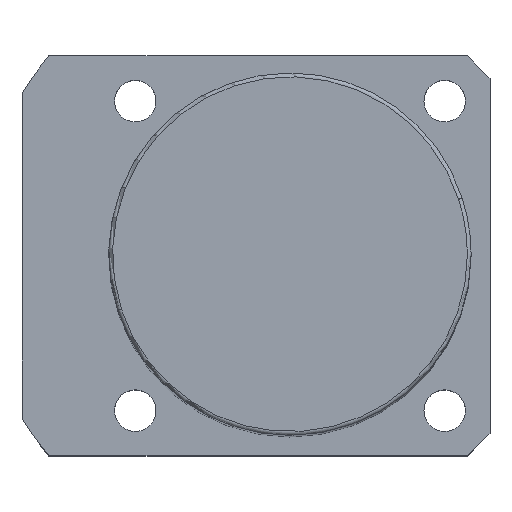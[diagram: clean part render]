
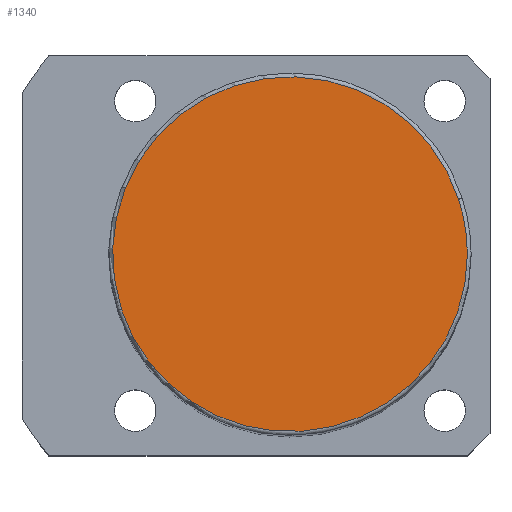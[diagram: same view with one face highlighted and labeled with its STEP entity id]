
A CAD part, top view. The second image highlights one B-rep face of the part: STEP entity #1340.
In plain terms, the highlighted planar face has unit normal (0, 0, 1).
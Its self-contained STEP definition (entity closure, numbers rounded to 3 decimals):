
#1306=CARTESIAN_POINT('',(23.5,0.0,139.0));
#1307=VERTEX_POINT('',#1306);
#1308=CARTESIAN_POINT('',(22.35,7.262,139.0));
#1309=VERTEX_POINT('',#1308);
#1310=CARTESIAN_POINT('',(0.0,0.0,139.0));
#1311=DIRECTION('',(0.0,0.0,1.0));
#1312=DIRECTION('',(1.0,0.0,0.0));
#1313=AXIS2_PLACEMENT_3D('',#1310,#1311,#1312);
#1314=CIRCLE('',#1313,23.5);
#1315=EDGE_CURVE('no 3340',#1307,#1309,#1314,.T.);
#1316=ORIENTED_EDGE('',*,*,#1315,.T.);
#1317=CARTESIAN_POINT('',(-22.35,-7.262,139.0));
#1318=VERTEX_POINT('',#1317);
#1319=CARTESIAN_POINT('',(0.0,0.0,139.0));
#1320=DIRECTION('',(0.0,0.0,1.0));
#1321=DIRECTION('',(1.0,0.0,0.0));
#1322=AXIS2_PLACEMENT_3D('',#1319,#1320,#1321);
#1323=CIRCLE('',#1322,23.5);
#1324=EDGE_CURVE('no 3346',#1309,#1318,#1323,.T.);
#1325=ORIENTED_EDGE('',*,*,#1324,.T.);
#1326=CARTESIAN_POINT('',(0.0,0.0,139.0));
#1327=DIRECTION('',(0.0,0.0,1.0));
#1328=DIRECTION('',(1.0,0.0,0.0));
#1329=AXIS2_PLACEMENT_3D('',#1326,#1327,#1328);
#1330=CIRCLE('',#1329,23.5);
#1331=EDGE_CURVE('no 3350',#1318,#1307,#1330,.T.);
#1332=ORIENTED_EDGE('',*,*,#1331,.T.);
#1333=EDGE_LOOP('',(#1316,#1325,#1332));
#1334=FACE_OUTER_BOUND('',#1333,.T.);
#1335=CARTESIAN_POINT('',(0.0,0.0,139.0));
#1336=DIRECTION('',(0.0,0.0,1.0));
#1337=DIRECTION('',(1.0,0.0,0.0));
#1338=AXIS2_PLACEMENT_3D('',#1335,#1336,#1337);
#1339=PLANE('',#1338);
#1340=ADVANCED_FACE('no 3331',(#1334),#1339,.T.);
